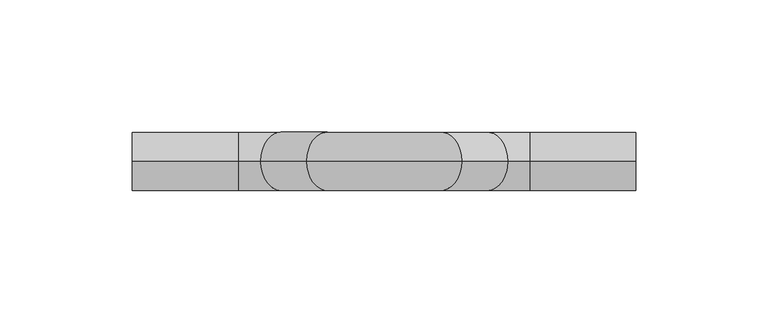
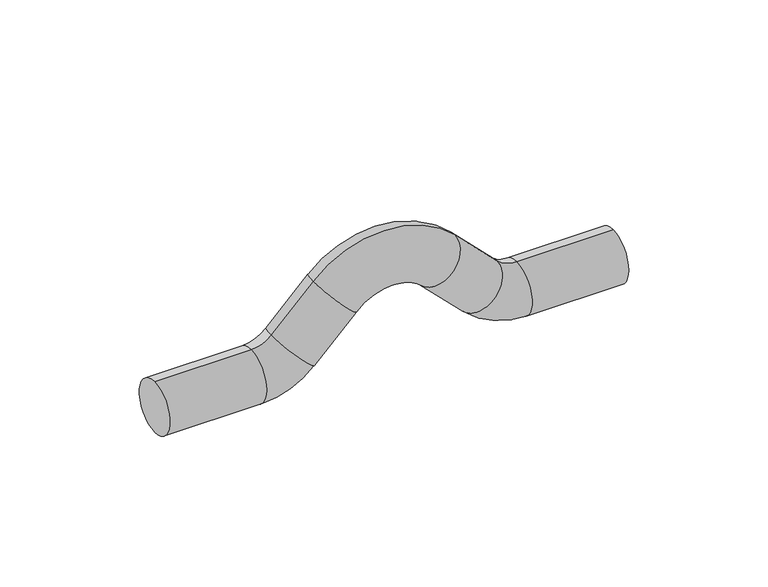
"""IFC4 building model written with IfcOpenShell, lengths in millimetres: pipe fitting geometry, РЕХАУ_Пресс Обвод : Обвод 22."""

from ifc_helpers import new_model, si_unit, point, frame, origin, place, context, project, spatial, circle_curve, ellipse_curve, trimmed, source, transform, mapped, element, save
from ifc_brep_helpers import plane_surface, cylinder_surface, revolved_surface, advanced_brep


def pipe_fitting_bbb16e40(model_context):
    return source(origin(), model_context, "Body", "AdvancedBrep", [
        advanced_brep(
        [(0.0, 0.0, -11.0), (0.0, 0.0, 11.0), (40.0, 0.0, -11.0), (40.0, 0.0, 11.0), (48.2731493, 0.0, 14.4268507), (63.8294985, 0.0, -1.1294985), (81.2731493, 0.0, 16.3141523), (65.7168002, 0.0, 31.8705015), (124.2831998, 0.0, 31.8705015), (108.7268507, 0.0, 16.3141523), (126.1705015, 0.0, -1.1294985), (141.7268507, 0.0, 14.4268507), (150.0, 0.0, 11.0), (150.0, 0.0, -11.0), (190.0, 0.0, -11.0), (190.0, 0.0, 11.0)],
        [
            (0, 1, circle_curve(frame((0.0, 0.0, 0.0), z_axis=(-1.0, 0.0, 0.0), x_axis=(0.0, 0.0, 1.0)), 11.0)),
            (1, 0, circle_curve(frame((0.0, 0.0, 0.0), z_axis=(-1.0, 0.0, 0.0), x_axis=(0.0, 0.0, 1.0)), 11.0)),
            (0, 2),
            (2, 3, circle_curve(frame((40.0, 0.0, 0.0), z_axis=(-1.0, 0.0, 0.0), x_axis=(0.0, 0.0, 1.0)), 11.0)),
            (3, 1),
            (3, 2, circle_curve(frame((40.0, 0.0, 0.0), z_axis=(-1.0, 0.0, 0.0), x_axis=(0.0, 0.0, 1.0)), 11.0)),
            (4, 3, circle_curve(frame((40.0, 0.0, 22.7), z_axis=(0.0, 1.0, 0.0), x_axis=(0.0, 0.0, -1.0)), 11.7)),
            (2, 5, circle_curve(frame((40.0, 0.0, 22.7), z_axis=(0.0, -1.0, 0.0), x_axis=(0.0, 0.0, -1.0)), 33.7)),
            (5, 4, circle_curve(frame((56.0513239, 0.0, 6.6486761), z_axis=(-0.7071067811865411, 0.0, -0.7071067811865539), x_axis=(-0.7071067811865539, 0.0, 0.7071067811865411)), 11.0)),
            (4, 5, circle_curve(frame((56.0513239, 0.0, 6.6486761), z_axis=(-0.707106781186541, 0.0, -0.707106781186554), x_axis=(-0.707106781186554, 0.0, 0.707106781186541)), 11.0)),
            (5, 6),
            (6, 7, circle_curve(frame((73.4949747, 0.0, 24.0923269), z_axis=(-0.707106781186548, 0.0, -0.707106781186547), x_axis=(-0.707106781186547, 0.0, 0.707106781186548)), 11.0)),
            (7, 4),
            (7, 6, circle_curve(frame((73.4949747, 0.0, 24.0923269), z_axis=(-0.707106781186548, 0.0, -0.707106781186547), x_axis=(-0.707106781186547, 0.0, 0.707106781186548)), 11.0)),
            (8, 7, circle_curve(frame((95.0, 0.0, 2.5873016), z_axis=(0.0, -1.0, 0.0), x_axis=(-0.7071067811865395, 0.0, 0.7071067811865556)), 41.4126984)),
            (6, 9, circle_curve(frame((95.0, 0.0, 2.5873016), z_axis=(0.0, 1.0, 0.0), x_axis=(-0.7071067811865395, 0.0, 0.7071067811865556)), 19.4126984)),
            (9, 8, circle_curve(frame((116.5050253, 0.0, 24.0923269), z_axis=(-0.7071067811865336, 0.0, 0.7071067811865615), x_axis=(0.7071067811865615, 0.0, 0.7071067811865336)), 11.0)),
            (8, 9, circle_curve(frame((116.5050253, 0.0, 24.0923269), z_axis=(-0.7071067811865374, 0.0, 0.7071067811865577), x_axis=(0.7071067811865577, 0.0, 0.7071067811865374)), 11.0)),
            (9, 10),
            (10, 11, circle_curve(frame((133.9486761, 0.0, 6.6486761), z_axis=(-0.7071067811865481, 0.0, 0.7071067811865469), x_axis=(0.7071067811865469, 0.0, 0.7071067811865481)), 11.0)),
            (11, 8),
            (11, 10, circle_curve(frame((133.9486761, 0.0, 6.6486761), z_axis=(-0.7071067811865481, 0.0, 0.7071067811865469), x_axis=(0.7071067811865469, 0.0, 0.7071067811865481)), 11.0)),
            (12, 11, circle_curve(frame((150.0, 0.0, 22.7), z_axis=(0.0, 1.0, 0.0), x_axis=(-0.7071067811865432, 0.0, -0.7071067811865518)), 11.7)),
            (10, 13, circle_curve(frame((150.0, 0.0, 22.7), z_axis=(0.0, -1.0, 0.0), x_axis=(-0.7071067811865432, 0.0, -0.7071067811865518)), 33.7)),
            (13, 12, circle_curve(frame((150.0, 0.0, 0.0), z_axis=(-1.0, 0.0, 0.0), x_axis=(0.0, 0.0, 1.0)), 11.0)),
            (12, 13, circle_curve(frame((150.0, 0.0, 0.0), z_axis=(-1.0, 0.0, 0.0), x_axis=(0.0, 0.0, 1.0)), 11.0)),
            (14, 15, circle_curve(frame((190.0, 0.0, 0.0), z_axis=(1.0, 0.0, 0.0), x_axis=(0.0, 0.0, 1.0)), 11.0)),
            (15, 14, circle_curve(frame((190.0, 0.0, 0.0), z_axis=(1.0, 0.0, 0.0), x_axis=(0.0, 0.0, 1.0)), 11.0)),
            (13, 14),
            (15, 12),
        ],
        [
            plane_surface(frame((0.0, 0.0, 0.0), z_axis=(-1.0, 0.0, 0.0), x_axis=(0.0, -1.0, 0.0))),
            cylinder_surface(frame((0.0, 0.0, 0.0), z_axis=(-1.0, 0.0, 0.0), x_axis=(0.0, 0.0, 1.0)), 11.0),
            revolved_surface(trimmed(ellipse_curve(frame((40.0, 0.0, 0.0), z_axis=(-1.0, 0.0, 0.0), x_axis=(0.0, 0.0, 1.0)), 11.0, 11.0), [point((40.0, 0.0, -11.0))], [point((40.0, 0.0, 11.0))], True, "CARTESIAN"), (40.0, 0.0, 22.7), (0.0, -1.0, 0.0)),
            revolved_surface(trimmed(ellipse_curve(frame((40.0, 0.0, 0.0), z_axis=(-1.0, 0.0, 0.0), x_axis=(0.0, 0.0, 1.0)), 11.0, 11.0), [point((40.0, 0.0, 11.0))], [point((40.0, 0.0, -11.0))], True, "CARTESIAN"), (40.0, 0.0, 22.7), (0.0, -1.0, 0.0)),
            cylinder_surface(frame((56.0513239, 0.0, 6.6486761), z_axis=(-0.707106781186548, 0.0, -0.707106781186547), x_axis=(-0.707106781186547, 0.0, 0.707106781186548)), 11.0),
            revolved_surface(trimmed(ellipse_curve(frame((73.4949747, 0.0, 24.0923269), z_axis=(-0.7071067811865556, 0.0, -0.7071067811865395), x_axis=(-0.7071067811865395, 0.0, 0.7071067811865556)), 11.0, 11.0), [point((81.2731493, 0.0, 16.3141523))], [point((65.7168002, 0.0, 31.8705015))], True, "CARTESIAN"), (95.0, 0.0, 2.5873016), (0.0, 1.0, 0.0)),
            revolved_surface(trimmed(ellipse_curve(frame((73.4949747, 0.0, 24.0923269), z_axis=(-0.7071067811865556, 0.0, -0.7071067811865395), x_axis=(-0.7071067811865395, 0.0, 0.7071067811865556)), 11.0, 11.0), [point((65.7168002, 0.0, 31.8705015))], [point((81.2731493, 0.0, 16.3141523))], True, "CARTESIAN"), (95.0, 0.0, 2.5873016), (0.0, 1.0, 0.0)),
            cylinder_surface(frame((116.5050253, 0.0, 24.0923269), z_axis=(-0.7071067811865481, 0.0, 0.7071067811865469), x_axis=(0.7071067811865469, 0.0, 0.7071067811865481)), 11.0),
            revolved_surface(trimmed(ellipse_curve(frame((133.9486761, 0.0, 6.6486761), z_axis=(-0.7071067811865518, 0.0, 0.7071067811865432), x_axis=(0.7071067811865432, 0.0, 0.7071067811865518)), 11.0, 11.0), [point((126.1705015, 0.0, -1.1294985))], [point((141.7268507, 0.0, 14.4268507))], True, "CARTESIAN"), (150.0, 0.0, 22.7), (0.0, -1.0, 0.0)),
            revolved_surface(trimmed(ellipse_curve(frame((133.9486761, 0.0, 6.6486761), z_axis=(-0.7071067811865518, 0.0, 0.7071067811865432), x_axis=(0.7071067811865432, 0.0, 0.7071067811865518)), 11.0, 11.0), [point((141.7268507, 0.0, 14.4268507))], [point((126.1705015, 0.0, -1.1294985))], True, "CARTESIAN"), (150.0, 0.0, 22.7), (0.0, -1.0, 0.0)),
            plane_surface(frame((190.0, 0.0, 0.0), z_axis=(1.0, 0.0, 0.0), x_axis=(0.0, -1.0, 0.0))),
            cylinder_surface(frame((150.0, 0.0, 0.0), z_axis=(-1.0, 0.0, 0.0), x_axis=(0.0, 0.0, 1.0)), 11.0),
        ],
        [
            (0, [[1, 2]]),
            (1, [[-1, 3, 4, 5]]),
            (1, [[-2, -5, 6, -3]]),
            (2, [[7, -4, 8, 9]]),
            (3, [[-8, -6, -7, 10]]),
            (4, [[-9, 11, 12, 13]]),
            (4, [[-10, -13, 14, -11]]),
            (5, [[15, -12, 16, 17]]),
            (6, [[-16, -14, -15, 18]]),
            (7, [[-17, 19, 20, 21]]),
            (7, [[-18, -21, 22, -19]]),
            (8, [[23, -20, 24, 25]]),
            (9, [[-24, -22, -23, 26]]),
            (10, [[27, 28]]),
            (11, [[-25, 29, -28, 30]]),
            (11, [[-26, -30, -27, -29]]),
        ],
    ),
    ])


if __name__ == "__main__":
    model = new_model("IFC4")
    model_context = context("Model", 3, world=origin())
    ifc_project = project(units=[si_unit("LENGTHUNIT", "METRE", prefix="MILLI")], contexts=[model_context])
    site = spatial("IfcSite", under=ifc_project)
    building = spatial("IfcBuilding", under=site)
    placement = place(None, origin())
    pipe_fitting_shape = pipe_fitting_bbb16e40(model_context)
    element("IfcPipeFitting", 1, ObjectType="РЕХАУ_Пресс Обвод : Обвод 22", at=placement, inside=building, context=model_context, shape_type="MappedRepresentation", body=[
        mapped(pipe_fitting_shape, transform((0.0, 0.0, 0.0), x_axis=(1.0, 0.0, 0.0), y_axis=(0.0, 1.0, 0.0), z_axis=(0.0, 0.0, 1.0))),
    ])
    save(model, "model.ifc")
